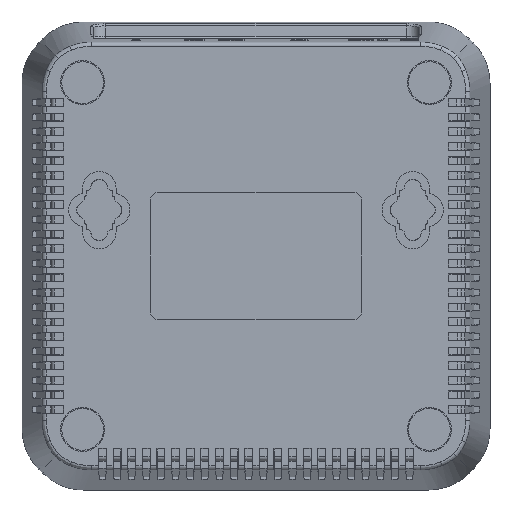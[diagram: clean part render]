
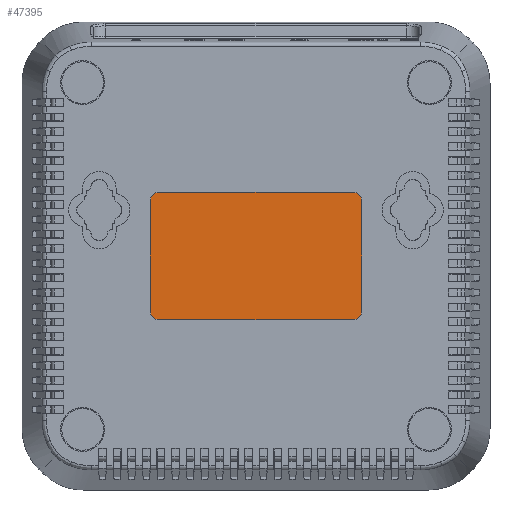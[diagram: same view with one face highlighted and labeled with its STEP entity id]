
A CAD part, front view. The second image highlights one B-rep face of the part: STEP entity #47395.
In plain terms, the highlighted planar face has unit normal (0, -1, 0).
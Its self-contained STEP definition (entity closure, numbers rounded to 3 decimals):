
#826 = CIRCLE ( 'NONE', #34779, 2. ) ;
#1040 = CARTESIAN_POINT ( 'NONE',  ( 23.25, -27.5, 15.25 ) ) ;
#1261 = EDGE_CURVE ( 'NONE', #75748, #72174, #826, .T. ) ;
#3630 = CARTESIAN_POINT ( 'NONE',  ( 25.25, -27.5, 13.25 ) ) ;
#5371 = LINE ( 'NONE', #3630, #67221 ) ;
#7810 = ORIENTED_EDGE ( 'NONE', *, *, #52903, .F. ) ;
#15963 = PLANE ( 'NONE',  #113665 ) ;
#16437 = DIRECTION ( 'NONE',  ( 0., -1., 0. ) ) ;
#17974 = CARTESIAN_POINT ( 'NONE',  ( -23.25, -27.5, 13.25 ) ) ;
#18412 = VECTOR ( 'NONE', #35880, 1000. ) ;
#18496 = LINE ( 'NONE', #55055, #102621 ) ;
#19735 = EDGE_CURVE ( 'NONE', #75748, #84176, #80739, .T. ) ;
#22879 = AXIS2_PLACEMENT_3D ( 'NONE', #59701, #70309, #60863 ) ;
#23548 = EDGE_CURVE ( 'NONE', #37219, #99793, #60725, .T. ) ;
#24014 = AXIS2_PLACEMENT_3D ( 'NONE', #78979, #16437, #78383 ) ;
#26160 = DIRECTION ( 'NONE',  ( 1., 0., 0. ) ) ;
#29578 = ORIENTED_EDGE ( 'NONE', *, *, #23548, .T. ) ;
#31710 = ORIENTED_EDGE ( 'NONE', *, *, #97466, .T. ) ;
#32125 = CARTESIAN_POINT ( 'NONE',  ( -23.25, -27.5, -15.25 ) ) ;
#34779 = AXIS2_PLACEMENT_3D ( 'NONE', #65159, #47482, #109457 ) ;
#35880 = DIRECTION ( 'NONE',  ( -1., 0., 0. ) ) ;
#37219 = VERTEX_POINT ( 'NONE', #85354 ) ;
#37868 = CIRCLE ( 'NONE', #22879, 2. ) ;
#43390 = CARTESIAN_POINT ( 'NONE',  ( 23.25, -27.5, -15.25 ) ) ;
#43692 = FACE_OUTER_BOUND ( 'NONE', #108153, .T. ) ;
#44644 = EDGE_CURVE ( 'NONE', #107066, #84176, #37868, .T. ) ;
#46471 = EDGE_CURVE ( 'NONE', #107066, #99793, #91895, .T. ) ;
#47057 = CARTESIAN_POINT ( 'NONE',  ( -25.25, -27.5, -13.25 ) ) ;
#47395 = ADVANCED_FACE ( 'NONE', ( #43692 ), #15963, .F. ) ;
#47482 = DIRECTION ( 'NONE',  ( 0., -1., 0. ) ) ;
#52903 = EDGE_CURVE ( 'NONE', #104501, #72174, #5371, .T. ) ;
#55055 = CARTESIAN_POINT ( 'NONE',  ( -23.25, -27.5, 15.25 ) ) ;
#59701 = CARTESIAN_POINT ( 'NONE',  ( -23.25, -27.5, -13.25 ) ) ;
#60725 = CIRCLE ( 'NONE', #81480, 2. ) ;
#60863 = DIRECTION ( 'NONE',  ( -1., 0., 0. ) ) ;
#62568 = DIRECTION ( 'NONE',  ( 0., 1., 0. ) ) ;
#64670 = VECTOR ( 'NONE', #92475, 1000. ) ;
#65159 = CARTESIAN_POINT ( 'NONE',  ( 23.25, -27.5, -13.25 ) ) ;
#67221 = VECTOR ( 'NONE', #94479, 1000. ) ;
#70309 = DIRECTION ( 'NONE',  ( 0., -1., 0. ) ) ;
#71201 = CIRCLE ( 'NONE', #24014, 2. ) ;
#72174 = VERTEX_POINT ( 'NONE', #85076 ) ;
#72589 = ORIENTED_EDGE ( 'NONE', *, *, #46471, .F. ) ;
#72780 = VERTEX_POINT ( 'NONE', #1040 ) ;
#73428 = DIRECTION ( 'NONE',  ( 0., -1., 0. ) ) ;
#75748 = VERTEX_POINT ( 'NONE', #43390 ) ;
#78383 = DIRECTION ( 'NONE',  ( 1., 0., 0. ) ) ;
#78979 = CARTESIAN_POINT ( 'NONE',  ( 23.25, -27.5, 13.25 ) ) ;
#80739 = LINE ( 'NONE', #116726, #18412 ) ;
#81480 = AXIS2_PLACEMENT_3D ( 'NONE', #17974, #73428, #110002 ) ;
#83354 = CARTESIAN_POINT ( 'NONE',  ( -25.25, -27.5, -13.25 ) ) ;
#84176 = VERTEX_POINT ( 'NONE', #32125 ) ;
#85076 = CARTESIAN_POINT ( 'NONE',  ( 25.25, -27.5, -13.25 ) ) ;
#85140 = ORIENTED_EDGE ( 'NONE', *, *, #93442, .F. ) ;
#85354 = CARTESIAN_POINT ( 'NONE',  ( -23.25, -27.5, 15.25 ) ) ;
#89698 = CARTESIAN_POINT ( 'NONE',  ( 0., -27.5, 0. ) ) ;
#91895 = LINE ( 'NONE', #47057, #64670 ) ;
#92475 = DIRECTION ( 'NONE',  ( 0., 0., 1. ) ) ;
#93442 = EDGE_CURVE ( 'NONE', #37219, #72780, #18496, .T. ) ;
#93693 = ORIENTED_EDGE ( 'NONE', *, *, #44644, .T. ) ;
#94479 = DIRECTION ( 'NONE',  ( 0., 0., -1. ) ) ;
#97466 = EDGE_CURVE ( 'NONE', #104501, #72780, #71201, .T. ) ;
#97978 = DIRECTION ( 'NONE',  ( 1., 0., 0. ) ) ;
#99793 = VERTEX_POINT ( 'NONE', #105388 ) ;
#102621 = VECTOR ( 'NONE', #26160, 1000. ) ;
#104501 = VERTEX_POINT ( 'NONE', #109978 ) ;
#105388 = CARTESIAN_POINT ( 'NONE',  ( -25.25, -27.5, 13.25 ) ) ;
#107066 = VERTEX_POINT ( 'NONE', #83354 ) ;
#108153 = EDGE_LOOP ( 'NONE', ( #29578, #72589, #93693, #116751, #116812, #7810, #31710, #85140 ) ) ;
#109457 = DIRECTION ( 'NONE',  ( 0., 0., -1. ) ) ;
#109978 = CARTESIAN_POINT ( 'NONE',  ( 25.25, -27.5, 13.25 ) ) ;
#110002 = DIRECTION ( 'NONE',  ( 0., 0., 1. ) ) ;
#113665 = AXIS2_PLACEMENT_3D ( 'NONE', #89698, #62568, #97978 ) ;
#116726 = CARTESIAN_POINT ( 'NONE',  ( 23.25, -27.5, -15.25 ) ) ;
#116751 = ORIENTED_EDGE ( 'NONE', *, *, #19735, .F. ) ;
#116812 = ORIENTED_EDGE ( 'NONE', *, *, #1261, .T. ) ;
